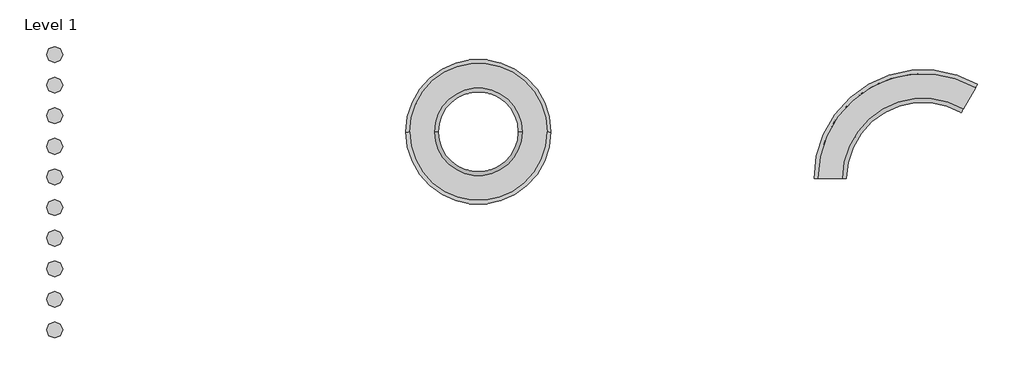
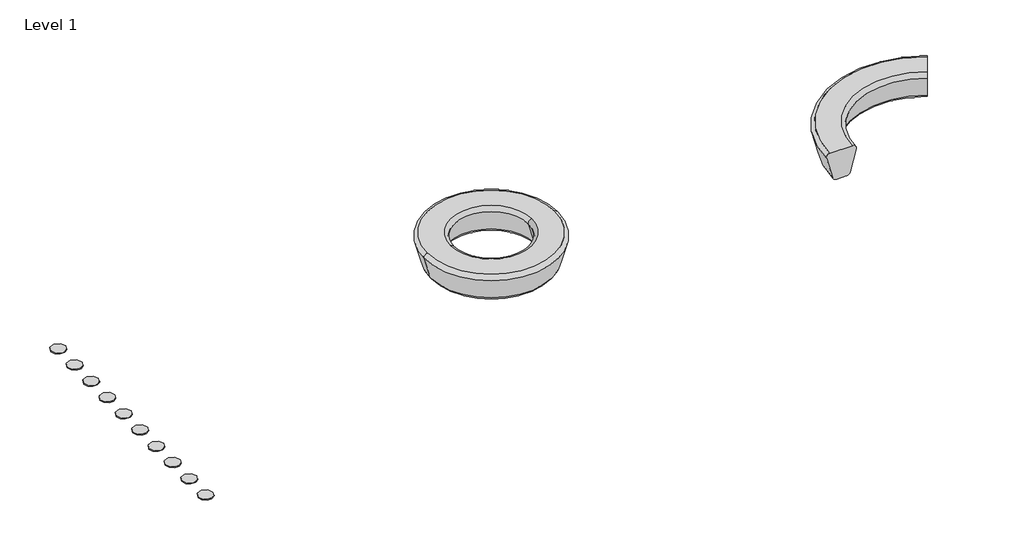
# One storey, incomplete: 10 proxies, 2 furniture elements.
"""IFC4 building model written with IfcOpenShell, lengths in millimetres."""

import ifcopenshell
import ifcopenshell.guid

model = None  # the IFC model being written
_history = None  # IfcOwnerHistory: only IFC2X3 demands one
_inside = {}  # id of a spatial element -> (the spatial element, [elements in it])
_under = {}  # id of a project, library or spatial element -> (it, [spatial elements below it])
_declared = {}  # id of a project -> (the project, [libraries it declares])
_typed = {}  # id of a type object -> (the type object, [elements of that type])
_made_of = {}  # id of a material, layer set ... -> (it, [elements and type objects made of it])


def new_model(schema):
    """Start an empty IFC model of exactly this schema.

    Asked for "IFC4X3", IfcOpenShell would pick the latest addendum, in which some entities
    have other attributes; the version numbers below select the first issue.
    IFC2X3 requires an IfcOwnerHistory on every rooted entity: one is made here for all.
    """
    global model, _history
    if schema == "IFC4X3":
        model = ifcopenshell.file(schema_version=(4, 3, 0, 0))
    else:
        model = ifcopenshell.file(schema=schema)
    _inside.clear()
    _under.clear()
    _declared.clear()
    _typed.clear()
    _made_of.clear()
    _history = None
    if model.schema == "IFC2X3":
        org = make("IfcOrganization", Name="unknown")
        user = make(
            "IfcPersonAndOrganization",
            ThePerson=make("IfcPerson", FamilyName="unknown"),
            TheOrganization=org,
        )
        app = make(
            "IfcApplication",
            ApplicationDeveloper=org,
            Version="unknown",
            ApplicationFullName="unknown",
            ApplicationIdentifier="unknown",
        )
        _history = make(
            "IfcOwnerHistory",
            OwningUser=user,
            OwningApplication=app,
            ChangeAction="ADDED",
            CreationDate=0,
        )
    return model


def make(cls, **values):
    """One entity of the class cls with the attributes given. An attribute that is None is left unset."""
    return model.create_entity(
        cls, **{name: value for name, value in values.items() if value is not None}
    )


def rooted(cls, **values):
    """An entity with a GlobalId (a new one), such as an element, a storey or a relation."""
    return make(cls, GlobalId=ifcopenshell.guid.new(), OwnerHistory=_history, **values)


def si_unit(unit_type, name, prefix=None):
    """IfcSIUnit, for example si_unit("LENGTHUNIT", "METRE", prefix="MILLI")."""
    return make("IfcSIUnit", UnitType=unit_type, Prefix=prefix, Name=name)


def assignment(units):
    """IfcUnitAssignment: the units of a project."""
    return None if units is None else make("IfcUnitAssignment", Units=units)


def point(xyz):
    """IfcCartesianPoint."""
    return None if xyz is None else make("IfcCartesianPoint", Coordinates=xyz)


def direction(xyz):
    """IfcDirection."""
    return None if xyz is None else make("IfcDirection", DirectionRatios=xyz)


def frame(location, z_axis=None, x_axis=None):
    """IfcAxis2Placement3D, a coordinate frame: its origin and axes. An axis left out is left unset."""
    return make(
        "IfcAxis2Placement3D",
        Location=point(location),
        Axis=direction(z_axis),
        RefDirection=direction(x_axis),
    )


def frame_2d(location, x_axis=None):
    """IfcAxis2Placement2D, a coordinate frame in the plane: its origin and x axis."""
    return make(
        "IfcAxis2Placement2D", Location=point(location), RefDirection=direction(x_axis)
    )


def origin():
    """The frame at (0, 0, 0) with its axes left unset."""
    return frame((0.0, 0.0, 0.0))


def origin_with_axes():
    """The frame at (0, 0, 0) with the z axis (0, 0, 1) and the x axis (1, 0, 0) written out."""
    return frame((0.0, 0.0, 0.0), z_axis=(0.0, 0.0, 1.0), x_axis=(1.0, 0.0, 0.0))


def origin_2d():
    """The frame at (0, 0) in the plane with its x axis left unset."""
    return frame_2d((0.0, 0.0))


def place(relative_to, where):
    """IfcLocalPlacement: puts the frame where relative to a parent placement (None: the world)."""
    return make(
        "IfcLocalPlacement", PlacementRelTo=relative_to, RelativePlacement=where
    )


def context(
    kind, dimensions, precision=None, world=None, true_north=None, identifier=None
):
    """IfcGeometricRepresentationContext, for example the 3D "Model" context."""
    return make(
        "IfcGeometricRepresentationContext",
        ContextIdentifier=identifier,
        ContextType=kind,
        CoordinateSpaceDimension=dimensions,
        Precision=precision,
        WorldCoordinateSystem=world,
        TrueNorth=true_north,
    )


def project(units=None, contexts=None):
    """IfcProject with its units and contexts."""
    return rooted(
        "IfcProject",
        Name="project",
        RepresentationContexts=contexts,
        UnitsInContext=assignment(units),
    )


def spatial(cls, under=None, at=None, **own):
    """A site, building, storey or space (cls), placed at a placement, below another one or the project."""
    s = rooted(cls, ObjectPlacement=at, **own)
    if under is not None:
        _under.setdefault(under.id(), (under, []))[1].append(s)
    return s


def polyline(points):
    """IfcPolyline through the points."""
    return make("IfcPolyline", Points=[point(p) for p in points])


def circle_curve(where, radius):
    """IfcCircle in the frame where."""
    return make("IfcCircle", Position=where, Radius=radius)


def ellipse_curve(where, semi_axis1, semi_axis2):
    """IfcEllipse in the frame where."""
    return make(
        "IfcEllipse", Position=where, SemiAxis1=semi_axis1, SemiAxis2=semi_axis2
    )


def trimmed(basis, trim1, trim2, sense, master):
    """IfcTrimmedCurve: the piece of a basis curve between two trims."""
    return make(
        "IfcTrimmedCurve",
        BasisCurve=basis,
        Trim1=trim1,
        Trim2=trim2,
        SenseAgreement=sense,
        MasterRepresentation=master,
    )


def segment(curve, same_sense, transition):
    """IfcCompositeCurveSegment."""
    return make(
        "IfcCompositeCurveSegment",
        Transition=transition,
        SameSense=same_sense,
        ParentCurve=curve,
    )


def composite_curve(segments, self_intersect=None):
    """IfcCompositeCurve: segments joined end to end."""
    return make("IfcCompositeCurve", Segments=segments, SelfIntersect=self_intersect)


def outline(outer, holes=None, kind="AREA"):
    """IfcArbitraryClosedProfileDef: a profile drawn as a closed curve; with holes, ...WithVoids."""
    if holes is None:
        return make("IfcArbitraryClosedProfileDef", ProfileType=kind, OuterCurve=outer)
    return make(
        "IfcArbitraryProfileDefWithVoids",
        ProfileType=kind,
        OuterCurve=outer,
        InnerCurves=holes,
    )


def extrude(swept, where, along, depth):
    """IfcExtrudedAreaSolid: the profile swept, set in the frame where, extruded along a direction by depth."""
    return make(
        "IfcExtrudedAreaSolid",
        SweptArea=swept,
        Position=where,
        ExtrudedDirection=direction(along),
        Depth=depth,
    )


def shape(context_of_items, identifier, shape_type, items):
    """IfcShapeRepresentation: the items that make up one representation, for example the "Body"."""
    return make(
        "IfcShapeRepresentation",
        ContextOfItems=context_of_items,
        RepresentationIdentifier=identifier,
        RepresentationType=shape_type,
        Items=items,
    )


def source(mapping_origin, context_of_items, identifier, shape_type, items):
    """IfcRepresentationMap: a shape defined once, which mapped items show again and again."""
    return make(
        "IfcRepresentationMap",
        MappingOrigin=mapping_origin,
        MappedRepresentation=shape(context_of_items, identifier, shape_type, items),
    )


def transform(
    local_origin,
    x_axis=None,
    y_axis=None,
    z_axis=None,
    scale=None,
    scale2=None,
    scale3=None,
    uniform=True,
):
    """IfcCartesianTransformationOperator3D, or its non-uniform kind. x_axis, y_axis, z_axis: its Axis1, 2, 3."""
    if uniform:
        return make(
            "IfcCartesianTransformationOperator3D",
            Axis1=direction(x_axis),
            Axis2=direction(y_axis),
            LocalOrigin=point(local_origin),
            Scale=scale,
            Axis3=direction(z_axis),
        )
    return make(
        "IfcCartesianTransformationOperator3DnonUniform",
        Axis1=direction(x_axis),
        Axis2=direction(y_axis),
        LocalOrigin=point(local_origin),
        Scale=scale,
        Axis3=direction(z_axis),
        Scale2=scale2,
        Scale3=scale3,
    )


def mapped(mapping_source, mapping_target):
    """IfcMappedItem: shows the shape of a source again, moved by a transform."""
    return make(
        "IfcMappedItem", MappingSource=mapping_source, MappingTarget=mapping_target
    )


def made_of(thing, what):
    """Note that an element or type object is made of a material, layer set ...; save() writes the relation."""
    if what is not None:
        _made_of.setdefault(what.id(), (what, []))[1].append(thing)
    return thing


def element(
    cls,
    number,
    at=None,
    inside=None,
    cuts=None,
    type_object=None,
    material=None,
    context=None,
    identifier="Body",
    shape_type=None,
    held_by="IfcProductDefinitionShape",
    body=None,
    shapes=None,
    **own,
):
    """One element of the class cls, such as IfcWall. Its Tag is "e" and its number.

    at: its placement. inside: the storey or other place that contains it. cuts: it is an
    opening in that element (IfcRelVoidsElement). A single representation is given by context,
    identifier, shape_type and body (its items); several are given by shapes. held_by: the class
    of the entity that holds the representations. save() writes the other relations.
    """
    e = rooted(cls, Tag="e%d" % number, ObjectPlacement=at, **own)
    if body is not None:
        shapes = [shape(context, identifier, shape_type, body)]
    if shapes is not None:
        e.Representation = make(held_by, Representations=shapes)
    if inside is not None:
        _inside.setdefault(inside.id(), (inside, []))[1].append(e)
    if cuts is not None:
        rooted(
            "IfcRelVoidsElement", RelatingBuildingElement=cuts, RelatedOpeningElement=e
        )
    if type_object is not None:
        _typed.setdefault(type_object.id(), (type_object, []))[1].append(e)
    return made_of(e, material)


def aggregate(whole, parts):
    """IfcRelAggregates: a whole, such as a stair, and the parts it consists of."""
    return rooted("IfcRelAggregates", RelatingObject=whole, RelatedObjects=parts)


def save(model, path):
    """Write the relations noted so far, then the file.

    IfcRelAggregates (storeys below a building ...), IfcRelContainedInSpatialStructure (elements
    in a storey), IfcRelDefinesByType, IfcRelAssociatesMaterial and IfcRelDeclares: one each for
    every whole, place, type object, material and project.
    """
    for whole, parts in _under.values():
        aggregate(whole, parts)
    for where, things in _inside.values():
        rooted(
            "IfcRelContainedInSpatialStructure",
            RelatedElements=things,
            RelatingStructure=where,
        )
    for kind, things in _typed.values():
        rooted("IfcRelDefinesByType", RelatedObjects=things, RelatingType=kind)
    for what, things in _made_of.values():
        rooted("IfcRelAssociatesMaterial", RelatedObjects=things, RelatingMaterial=what)
    for by, libraries in _declared.values():
        rooted("IfcRelDeclares", RelatingContext=by, RelatedDefinitions=libraries)
    model.write(path)


def plane_surface(at):
    """IfcPlane: the flat surface through the origin of the frame at, square to its z axis."""
    return make("IfcPlane", Position=at)


def revolved_surface(curve, axis_point, axis_direction):
    """IfcSurfaceOfRevolution: the curve turned about the line through axis_point along axis_direction."""
    return make(
        "IfcSurfaceOfRevolution",
        SweptCurve=make("IfcArbitraryOpenProfileDef", ProfileType="CURVE", Curve=curve),
        AxisPosition=make("IfcAxis1Placement", Location=point(axis_point), Axis=direction(axis_direction)),
    )


def advanced_brep(points, edges, surfaces, faces):
    """IfcAdvancedBrep: a solid bounded by faces that lie on surfaces and meet in shared edges.

    An edge is (start, end): straight between two places in points (the first is 0);
    or (start, end, curve); or (start, end, curve, False) where it runs against its curve.
    A face is (place in surfaces, loops), or (place, loops, False) where it looks against
    its surface's normal. A loop lists edges by number (the first is 1), with a minus sign
    where the edge is run from its end to its start. The first loop is the outer one.
    """
    corners = [point(p) for p in points]
    vertices = [make("IfcVertexPoint", VertexGeometry=c) for c in corners]
    made = []
    for start, end, *more in edges:
        made.append(
            make(
                "IfcEdgeCurve",
                EdgeStart=vertices[start],
                EdgeEnd=vertices[end],
                EdgeGeometry=more[0] if more else make("IfcPolyline", Points=[corners[start], corners[end]]),
                SameSense=more[1] if len(more) > 1 else True,
            )
        )
    hull = []
    for where, loops, *sense in faces:
        bounds = []
        for j, loop in enumerate(loops):
            ring = [make("IfcOrientedEdge", EdgeElement=made[abs(k) - 1], Orientation=k > 0) for k in loop]
            bounds.append(
                make(
                    "IfcFaceOuterBound" if j == 0 else "IfcFaceBound",
                    Bound=make("IfcEdgeLoop", EdgeList=ring),
                    Orientation=True,
                )
            )
        hull.append(make("IfcAdvancedFace", Bounds=bounds, FaceSurface=surfaces[where], SameSense=sense[0] if sense else True))
    return make("IfcAdvancedBrep", Outer=make("IfcClosedShell", CfsFaces=hull))


def materialmodel_materialmodel_a045d503(model_context):
    return source(origin(), model_context, "Body", "SweptSolid", [
        extrude(outline(composite_curve([segment(trimmed(circle_curve(origin_2d(), 100.0), [point((-100.0, 0.0))], [point((100.0, 0.0))], False, "CARTESIAN"), True, "CONTINUOUS"), segment(trimmed(circle_curve(origin_2d(), 100.0), [point((100.0, 0.0))], [point((-100.0, 0.0))], False, "CARTESIAN"), True, "CONTINUOUS")], self_intersect=False)), origin_with_axes(), (0.0, 0.0, 1.0), 9.142525),
    ])


def furniture_19c0a6c2(model_context):
    return source(origin(), model_context, "Body", "AdvancedBrep", [
        advanced_brep(
        [(-578.234545, 0.0, 42.0312789), (578.234545, 0.0, 42.0312789), (633.0107741, 0.0, 0.0), (-633.0107741, 0.0, 0.0), (-497.9802551, 0.0, 341.5443664), (497.9802551, 0.0, 341.5443664), (-542.7971698, 0.0, 399.9509069), (542.7971698, 0.0, 399.9509069), (-897.1604862, 0.0, 341.5443664), (897.1604862, 0.0, 341.5443664), (852.3435714, 0.0, 399.9509069), (-852.3435714, 0.0, 399.9509069), (-816.9061962, 0.0, 42.0312789), (816.9061962, 0.0, 42.0312789), (-762.1299671, 0.0, 0.0), (762.1299671, 0.0, 0.0)],
        [
            (0, 1, circle_curve(frame((0.0, 0.0, 42.0312789), z_axis=(0.0, 0.0, 1.0), x_axis=(1.0, 0.0, 0.0)), 578.234545)),
            (1, 2, circle_curve(frame((633.0107741, 0.0, 56.7085253), z_axis=(0.0, -1.0, 0.0), x_axis=(1.0, 0.0, 0.0)), 56.7085253)),
            (2, 3, circle_curve(frame((0.0, 0.0, 0.0), z_axis=(0.0, 0.0, -1.0), x_axis=(1.0, 0.0, 0.0)), 633.0107741)),
            (3, 0, circle_curve(frame((-633.0107741, 0.0, 56.7085253), z_axis=(0.0, -1.0, 0.0), x_axis=(-1.0, 0.0, 0.0)), 56.7085253)),
            (4, 5, circle_curve(frame((0.0, 0.0, 341.5443664), z_axis=(0.0, 0.0, 1.0), x_axis=(1.0, 0.0, 0.0)), 497.9802551)),
            (5, 1),
            (0, 4),
            (6, 7, circle_curve(frame((0.0, 0.0, 399.9509069), z_axis=(0.0, 0.0, 1.0), x_axis=(1.0, 0.0, 0.0)), 542.7971698)),
            (7, 5, circle_curve(frame((542.7971698, 0.0, 353.5530226), z_axis=(0.0, -1.0, 0.0), x_axis=(1.0, 0.0, 0.0)), 46.3978843)),
            (4, 6, circle_curve(frame((-542.7971698, 0.0, 353.5530226), z_axis=(0.0, -1.0, 0.0), x_axis=(-1.0, 0.0, 0.0)), 46.3978843)),
            (8, 9, circle_curve(frame((0.0, 0.0, 341.5443664), z_axis=(0.0, 0.0, 1.0), x_axis=(1.0, 0.0, 0.0)), 897.1604862)),
            (9, 10, circle_curve(frame((852.3435714, 0.0, 353.5530226), z_axis=(0.0, -1.0, 0.0), x_axis=(-1.0, 0.0, 0.0)), 46.3978843)),
            (10, 11, circle_curve(frame((0.0, 0.0, 399.9509069), z_axis=(0.0, 0.0, -1.0), x_axis=(1.0, 0.0, 0.0)), 852.3435714)),
            (11, 8, circle_curve(frame((-852.3435714, 0.0, 353.5530226), z_axis=(0.0, -1.0, 0.0), x_axis=(1.0, 0.0, 0.0)), 46.3978843)),
            (12, 13, circle_curve(frame((0.0, 0.0, 42.0312789), z_axis=(0.0, 0.0, 1.0), x_axis=(1.0, 0.0, 0.0)), 816.9061962)),
            (13, 9),
            (8, 12),
            (14, 15, circle_curve(origin_with_axes(), 762.1299671)),
            (15, 13, circle_curve(frame((762.1299671, 0.0, 56.7085253), z_axis=(0.0, -1.0, 0.0), x_axis=(-1.0, 0.0, 0.0)), 56.7085253)),
            (12, 14, circle_curve(frame((-762.1299671, 0.0, 56.7085253), z_axis=(0.0, -1.0, 0.0), x_axis=(1.0, 0.0, 0.0)), 56.7085253)),
            (14, 15, circle_curve(frame((0.0, 0.0, 0.0), z_axis=(0.0, 0.0, -1.0), x_axis=(-1.0, 0.0, 0.0)), 762.1299671)),
            (2, 3, circle_curve(frame((0.0, 0.0, 0.0), z_axis=(0.0, 0.0, 1.0), x_axis=(-1.0, 0.0, 0.0)), 633.0107741)),
            (1, 0, circle_curve(frame((0.0, 0.0, 42.0312789), z_axis=(0.0, 0.0, 1.0), x_axis=(-1.0, 0.0, 0.0)), 578.234545)),
            (5, 4, circle_curve(frame((0.0, 0.0, 341.5443664), z_axis=(0.0, 0.0, 1.0), x_axis=(-1.0, 0.0, 0.0)), 497.9802551)),
            (7, 6, circle_curve(frame((0.0, 0.0, 399.9509069), z_axis=(0.0, 0.0, 1.0), x_axis=(-1.0, 0.0, 0.0)), 542.7971698)),
            (10, 11, circle_curve(frame((0.0, 0.0, 399.9509069), z_axis=(0.0, 0.0, 1.0), x_axis=(-1.0, 0.0, 0.0)), 852.3435714)),
            (9, 8, circle_curve(frame((0.0, 0.0, 341.5443664), z_axis=(0.0, 0.0, 1.0), x_axis=(-1.0, 0.0, 0.0)), 897.1604862)),
            (13, 12, circle_curve(frame((0.0, 0.0, 42.0312789), z_axis=(0.0, 0.0, 1.0), x_axis=(-1.0, 0.0, 0.0)), 816.9061962)),
        ],
        [
            revolved_surface(trimmed(ellipse_curve(frame((633.0107741, 0.0, 56.7085253), z_axis=(0.0, 1.0, 0.0), x_axis=(1.0, 0.0, 0.0)), 56.7085253, 56.7085253), [point((633.0107741, 0.0, 0.0))], [point((578.234545, 0.0, 42.0312789))], True, "CARTESIAN"), (0.0, 0.0, 0.0), (0.0, 0.0, -1.0)),
            revolved_surface(polyline([(578.234545, 0.0, 42.0312789), (497.9802551, 0.0, 341.5443664)]), (0.0, 0.0, 0.0), (0.0, 0.0, -1.0)),
            revolved_surface(trimmed(ellipse_curve(frame((542.7971698, 0.0, 353.5530226), z_axis=(0.0, 1.0, 0.0), x_axis=(1.0, 0.0, 0.0)), 46.3978843, 46.3978843), [point((497.9802551, 0.0, 341.5443664))], [point((542.7971698, 0.0, 399.9509069))], True, "CARTESIAN"), (0.0, 0.0, 0.0), (0.0, 0.0, -1.0)),
            revolved_surface(trimmed(ellipse_curve(frame((852.3435714, 0.0, 353.5530226), z_axis=(0.0, 1.0, 0.0), x_axis=(-1.0, 0.0, 0.0)), 46.3978843, 46.3978843), [point((852.3435714, 0.0, 399.9509069))], [point((897.1604862, 0.0, 341.5443664))], True, "CARTESIAN"), (0.0, 0.0, 0.0), (0.0, 0.0, -1.0)),
            revolved_surface(polyline([(897.1604862, 0.0, 341.5443664), (816.9061962, 0.0, 42.0312789)]), (0.0, 0.0, 0.0), (0.0, 0.0, -1.0)),
            revolved_surface(trimmed(ellipse_curve(frame((762.1299671, 0.0, 56.7085253), z_axis=(0.0, 1.0, 0.0), x_axis=(-1.0, 0.0, 0.0)), 56.7085253, 56.7085253), [point((816.9061962, 0.0, 42.0312789))], [point((762.1299671, 0.0, 0.0))], True, "CARTESIAN"), (0.0, 0.0, 0.0), (0.0, 0.0, -1.0)),
            plane_surface(frame((0.0, 0.0, 0.0), z_axis=(0.0, 0.0, -1.0), x_axis=(-1.0, 0.0, 0.0))),
            revolved_surface(trimmed(ellipse_curve(frame((-633.0107741, 0.0, 56.7085253), z_axis=(0.0, -1.0, 0.0), x_axis=(-1.0, 0.0, 0.0)), 56.7085253, 56.7085253), [point((-633.0107741, 0.0, 0.0))], [point((-578.234545, 0.0, 42.0312789))], True, "CARTESIAN"), (0.0, 0.0, 0.0), (0.0, 0.0, -1.0)),
            revolved_surface(polyline([(-578.234545, 0.0, 42.0312789), (-497.9802551, 0.0, 341.5443664)]), (0.0, 0.0, 0.0), (0.0, 0.0, -1.0)),
            revolved_surface(trimmed(ellipse_curve(frame((-542.7971698, 0.0, 353.5530226), z_axis=(0.0, -1.0, 0.0), x_axis=(-1.0, 0.0, 0.0)), 46.3978843, 46.3978843), [point((-497.9802551, 0.0, 341.5443664))], [point((-542.7971698, 0.0, 399.9509069))], True, "CARTESIAN"), (0.0, 0.0, 0.0), (0.0, 0.0, -1.0)),
            plane_surface(frame((0.0, 0.0, 399.9509069), z_axis=(0.0, 0.0, 1.0), x_axis=(-1.0, 0.0, 0.0))),
            revolved_surface(trimmed(ellipse_curve(frame((-852.3435714, 0.0, 353.5530226), z_axis=(0.0, -1.0, 0.0), x_axis=(1.0, 0.0, 0.0)), 46.3978843, 46.3978843), [point((-852.3435714, 0.0, 399.9509069))], [point((-897.1604862, 0.0, 341.5443664))], True, "CARTESIAN"), (0.0, 0.0, 0.0), (0.0, 0.0, -1.0)),
            revolved_surface(polyline([(-897.1604862, 0.0, 341.5443664), (-816.9061962, 0.0, 42.0312789)]), (0.0, 0.0, 0.0), (0.0, 0.0, -1.0)),
            revolved_surface(trimmed(ellipse_curve(frame((-762.1299671, 0.0, 56.7085253), z_axis=(0.0, -1.0, 0.0), x_axis=(1.0, 0.0, 0.0)), 56.7085253, 56.7085253), [point((-816.9061962, 0.0, 42.0312789))], [point((-762.1299671, 0.0, 0.0))], True, "CARTESIAN"), (0.0, 0.0, 0.0), (0.0, 0.0, -1.0)),
        ],
        [
            (0, [[1, 2, 3, 4]]),
            (1, [[5, 6, -1, 7]]),
            (2, [[8, 9, -5, 10]]),
            (3, [[11, 12, 13, 14]]),
            (4, [[15, 16, -11, 17]]),
            (5, [[18, 19, -15, 20]]),
            (6, [[21, -18], [22, -3]]),
            (7, [[23, -4, -22, -2]]),
            (8, [[24, -7, -23, -6]]),
            (9, [[25, -10, -24, -9]]),
            (10, [[26, -13], [-25, -8]]),
            (11, [[27, -14, -26, -12]]),
            (12, [[28, -17, -27, -16]]),
            (13, [[-21, -20, -28, -19]]),
        ],
    ),
    ])


def furniture_7adfde9e(model_context):
    return source(origin(), model_context, "Body", "AdvancedBrep", [
        advanced_brep(
        [(-199.3955929, 0.0, 341.3051683), (-119.141303, 0.0, 41.7920808), (-64.3650739, 0.0, -0.2391981), (64.3650739, 0.0, -0.2391981), (119.141303, 0.0, 41.7920808), (199.3955929, 0.0, 341.3051683), (154.5786782, 0.0, 399.7117088), (-154.5786782, 0.0, 399.7117088), (1824.6348107, 1168.5744984, 341.3051683), (1802.2263534, 1129.7619117, 399.7117088), (1647.6476752, 862.0237874, 399.7117088), (1625.2392178, 823.2112007, 341.3051683), (1665.3663628, 892.7134545, 41.7920808), (1692.7544774, 940.1510605, -0.2391981), (1757.1195512, 1051.6346386, -0.2391981), (1784.5076658, 1099.0722446, 41.7920808)],
        [
            (0, 1),
            (1, 2, circle_curve(frame((-64.3650739, 0.0, 56.4693272), z_axis=(0.0, -1.0, 0.0), x_axis=(1.0, 0.0, 0.0)), 56.7085253)),
            (2, 3),
            (3, 4, circle_curve(frame((64.3650739, 0.0, 56.4693272), z_axis=(0.0, -1.0, 0.0), x_axis=(-1.0, 0.0, 0.0)), 56.7085253)),
            (4, 5),
            (5, 6, circle_curve(frame((154.5786782, 0.0, 353.3138245), z_axis=(0.0, -1.0, 0.0), x_axis=(-1.0, 0.0, 0.0)), 46.3978843)),
            (6, 7),
            (7, 0, circle_curve(frame((-154.5786782, 0.0, 353.3138245), z_axis=(0.0, -1.0, 0.0), x_axis=(1.0, 0.0, 0.0)), 46.3978843)),
            (8, 9, circle_curve(frame((1802.2263534, 1129.7619117, 353.3138245), z_axis=(0.8660254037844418, -0.4999999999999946, 0.0), x_axis=(-0.4999999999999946, -0.8660254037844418, 0.0)), 46.3978843)),
            (9, 10),
            (10, 11, circle_curve(frame((1647.6476752, 862.0237874, 353.3138245), z_axis=(0.8660254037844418, -0.49999999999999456, 0.0), x_axis=(0.49999999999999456, 0.8660254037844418, 0.0)), 46.3978843)),
            (11, 12),
            (12, 13, circle_curve(frame((1692.7544774, 940.1510605, 56.4693272), z_axis=(0.8660254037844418, -0.49999999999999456, 0.0), x_axis=(0.49999999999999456, 0.8660254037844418, 0.0)), 56.7085253)),
            (13, 14),
            (14, 15, circle_curve(frame((1757.1195512, 1051.6346386, 56.4693272), z_axis=(0.8660254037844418, -0.4999999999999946, 0.0), x_axis=(-0.4999999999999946, -0.8660254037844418, 0.0)), 56.7085253)),
            (15, 8),
            (8, 0, circle_curve(frame((1149.9580095, 0.0, 341.3051683), z_axis=(0.0, 0.0, 1.0), x_axis=(-1.0, 0.0, 0.0)), 1349.3536025)),
            (7, 9, circle_curve(frame((1149.9580095, 0.0, 399.7117088), z_axis=(0.0, 0.0, -1.0), x_axis=(-1.0, 0.0, 0.0)), 1304.5366877)),
            (15, 1, circle_curve(frame((1149.9580095, 0.0, 41.7920808), z_axis=(0.0, 0.0, 1.0), x_axis=(-1.0, 0.0, 0.0)), 1269.0993125)),
            (14, 2, circle_curve(frame((1149.9580095, 0.0, -0.2391981), z_axis=(0.0, 0.0, 1.0), x_axis=(-1.0, 0.0, 0.0)), 1214.3230834)),
            (13, 3, circle_curve(frame((1149.9580095, 0.0, -0.2391981), z_axis=(0.0, 0.0, 1.0), x_axis=(-1.0, 0.0, 0.0)), 1085.5929357)),
            (12, 4, circle_curve(frame((1149.9580095, 0.0, 41.7920808), z_axis=(0.0, 0.0, 1.0), x_axis=(-1.0, 0.0, 0.0)), 1030.8167065)),
            (11, 5, circle_curve(frame((1149.9580095, 0.0, 341.3051683), z_axis=(0.0, 0.0, 1.0), x_axis=(-1.0, 0.0, 0.0)), 950.5624166)),
            (10, 6, circle_curve(frame((1149.9580095, 0.0, 399.7117088), z_axis=(0.0, 0.0, 1.0), x_axis=(-1.0, 0.0, 0.0)), 995.3793314)),
        ],
        [
            plane_surface(frame((0.0, 0.0, 0.0), z_axis=(0.0, -1.0, 0.0), x_axis=(0.0, 0.0, 1.0))),
            plane_surface(frame((1724.9370143, 995.8928495, 0.0), z_axis=(0.8660254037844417, -0.49999999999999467, 0.0), x_axis=(0.0, 0.0, 1.0))),
            revolved_surface(trimmed(ellipse_curve(frame((-154.5786782, 0.0, 353.3138245), z_axis=(0.0, -1.0, 0.0), x_axis=(1.0, 0.0, 0.0)), 46.3978843, 46.3978843), [point((-154.5786782, 0.0, 399.7117088))], [point((-199.3955929, 0.0, 341.3051683))], True, "CARTESIAN"), (1149.9580095, 0.0, 0.0), (0.0, 0.0, -1.0)),
            revolved_surface(polyline([(-199.3955929, 0.0, 341.3051683), (-119.141303, 0.0, 41.7920808)]), (1149.9580095, 0.0, 0.0), (0.0, 0.0, -1.0)),
            revolved_surface(trimmed(ellipse_curve(frame((-64.3650739, 0.0, 56.4693272), z_axis=(0.0, -1.0, 0.0), x_axis=(1.0, 0.0, 0.0)), 56.7085253, 56.7085253), [point((-119.141303, 0.0, 41.7920808))], [point((-64.3650739, 0.0, -0.2391981))], True, "CARTESIAN"), (1149.9580095, 0.0, 0.0), (0.0, 0.0, -1.0)),
            plane_surface(frame((1149.9580095, 0.0, -0.2391981), z_axis=(0.0, 0.0, -1.0), x_axis=(-1.0, 0.0, 0.0))),
            revolved_surface(trimmed(ellipse_curve(frame((64.3650739, 0.0, 56.4693272), z_axis=(0.0, -1.0, 0.0), x_axis=(-1.0, 0.0, 0.0)), 56.7085253, 56.7085253), [point((64.3650739, 0.0, -0.2391981))], [point((119.141303, 0.0, 41.7920808))], True, "CARTESIAN"), (1149.9580095, 0.0, 0.0), (0.0, 0.0, -1.0)),
            revolved_surface(polyline([(119.141303, 0.0, 41.7920808), (199.3955929, 0.0, 341.3051683)]), (1149.9580095, 0.0, 0.0), (0.0, 0.0, -1.0)),
            revolved_surface(trimmed(ellipse_curve(frame((154.5786782, 0.0, 353.3138245), z_axis=(0.0, -1.0, 0.0), x_axis=(-1.0, 0.0, 0.0)), 46.3978843, 46.3978843), [point((199.3955929, 0.0, 341.3051683))], [point((154.5786782, 0.0, 399.7117088))], True, "CARTESIAN"), (1149.9580095, 0.0, 0.0), (0.0, 0.0, -1.0)),
            plane_surface(frame((1149.9580095, 0.0, 399.7117088), z_axis=(0.0, 0.0, 1.0), x_axis=(-1.0, 0.0, 0.0))),
        ],
        [
            (0, [[1, 2, 3, 4, 5, 6, 7, 8]]),
            (1, [[9, 10, 11, 12, 13, 14, 15, 16]]),
            (2, [[17, -8, 18, -9]]),
            (3, [[19, -1, -17, -16]]),
            (4, [[20, -2, -19, -15]]),
            (5, [[21, -3, -20, -14]]),
            (6, [[22, -4, -21, -13]]),
            (7, [[23, -5, -22, -12]]),
            (8, [[24, -6, -23, -11]]),
            (9, [[-18, -7, -24, -10]]),
        ],
    ),
    ])


model = new_model("IFC4")

# Units and contexts
model_context = context("Model", 3, world=origin())
ifc_project = project(units=[si_unit("LENGTHUNIT", "METRE", prefix="MILLI")], contexts=[model_context])

# Site, building, storey
site = spatial("IfcSite", under=ifc_project)
building = spatial("IfcBuilding", under=site)
storey = spatial("IfcBuildingStorey", under=building, Name="Level 1", Elevation=0.0)

# Proxies
placement = place(None, origin())
materialmodel_materialmodel_shape = materialmodel_materialmodel_a045d503(model_context)
element("IfcBuildingElementProxy", 1, Name="MaterialModel : MaterialModel", ObjectType="MaterialModel : MaterialModel", at=placement, inside=storey, context=model_context, shape_type="MappedRepresentation", body=[
    mapped(materialmodel_materialmodel_shape, transform((-7577.4682316, 1428.2807056, 0.0), x_axis=(1.0, 0.0, 0.0), y_axis=(0.0, 1.0, 0.0), z_axis=(0.0, 0.0, 1.0))),
])
element("IfcBuildingElementProxy", 2, Name="MaterialModel : MaterialModel", ObjectType="MaterialModel : MaterialModel", at=placement, inside=storey, context=model_context, shape_type="MappedRepresentation", body=[
    mapped(materialmodel_materialmodel_shape, transform((-7577.4682316, 1048.2807056, 0.0), x_axis=(1.0, 0.0, 0.0), y_axis=(0.0, 1.0, 0.0), z_axis=(0.0, 0.0, 1.0))),
])
element("IfcBuildingElementProxy", 3, Name="MaterialModel : MaterialModel", ObjectType="MaterialModel : MaterialModel", at=placement, inside=storey, context=model_context, shape_type="MappedRepresentation", body=[
    mapped(materialmodel_materialmodel_shape, transform((-7577.4682316, 668.2807056, 0.0), x_axis=(1.0, 0.0, 0.0), y_axis=(0.0, 1.0, 0.0), z_axis=(0.0, 0.0, 1.0))),
])
element("IfcBuildingElementProxy", 4, Name="MaterialModel : MaterialModel", ObjectType="MaterialModel : MaterialModel", at=placement, inside=storey, context=model_context, shape_type="MappedRepresentation", body=[
    mapped(materialmodel_materialmodel_shape, transform((-7577.4682316, -91.7192944, 0.0), x_axis=(1.0, 0.0, 0.0), y_axis=(0.0, 1.0, 0.0), z_axis=(0.0, 0.0, 1.0))),
])
element("IfcBuildingElementProxy", 5, Name="MaterialModel : MaterialModel", ObjectType="MaterialModel : MaterialModel", at=placement, inside=storey, context=model_context, shape_type="MappedRepresentation", body=[
    mapped(materialmodel_materialmodel_shape, transform((-7577.4682316, -471.7192944, 0.0), x_axis=(1.0, 0.0, 0.0), y_axis=(0.0, 1.0, 0.0), z_axis=(0.0, 0.0, 1.0))),
])
element("IfcBuildingElementProxy", 6, Name="MaterialModel : MaterialModel", ObjectType="MaterialModel : MaterialModel", at=placement, inside=storey, context=model_context, shape_type="MappedRepresentation", body=[
    mapped(materialmodel_materialmodel_shape, transform((-7577.4682316, -851.7192944, 0.0), x_axis=(1.0, 0.0, 0.0), y_axis=(0.0, 1.0, 0.0), z_axis=(0.0, 0.0, 1.0))),
])
element("IfcBuildingElementProxy", 7, Name="MaterialModel : MaterialModel", ObjectType="MaterialModel : MaterialModel", at=placement, inside=storey, context=model_context, shape_type="MappedRepresentation", body=[
    mapped(materialmodel_materialmodel_shape, transform((-7577.4682316, -1231.7192944, 0.0), x_axis=(1.0, 0.0, 0.0), y_axis=(0.0, 1.0, 0.0), z_axis=(0.0, 0.0, 1.0))),
])
element("IfcBuildingElementProxy", 8, Name="MaterialModel : MaterialModel", ObjectType="MaterialModel : MaterialModel", at=placement, inside=storey, context=model_context, shape_type="MappedRepresentation", body=[
    mapped(materialmodel_materialmodel_shape, transform((-7577.4682316, -1611.7192944, 0.0), x_axis=(1.0, 0.0, 0.0), y_axis=(0.0, 1.0, 0.0), z_axis=(0.0, 0.0, 1.0))),
])
element("IfcBuildingElementProxy", 9, Name="MaterialModel : MaterialModel", ObjectType="MaterialModel : MaterialModel", at=placement, inside=storey, context=model_context, shape_type="MappedRepresentation", body=[
    mapped(materialmodel_materialmodel_shape, transform((-7577.4682316, -1991.7192944, 0.0), x_axis=(1.0, 0.0, 0.0), y_axis=(0.0, 1.0, 0.0), z_axis=(0.0, 0.0, 1.0))),
])
element("IfcBuildingElementProxy", 10, Name="MaterialModel : MaterialModel", ObjectType="MaterialModel : MaterialModel", at=placement, inside=storey, context=model_context, shape_type="MappedRepresentation", body=[
    mapped(materialmodel_materialmodel_shape, transform((-7577.4682316, 288.2807056, 0.0), x_axis=(1.0, 0.0, 0.0), y_axis=(0.0, 1.0, 0.0), z_axis=(0.0, 0.0, 1.0))),
])

# Furniture
furniture_shape = furniture_19c0a6c2(model_context)
element("IfcFurniture", 11, ObjectType="out-sider - Loop - Circle - Bench : out-sider - Loop - Circle - Bench", at=placement, inside=storey, context=model_context, shape_type="MappedRepresentation", body=[
    mapped(furniture_shape, transform((-2322.7952886, 468.5757505, 0.0), x_axis=(1.0, 0.0, 0.0), y_axis=(0.0, 1.0, 0.0), z_axis=(0.0, 0.0, 1.0))),
])
furniture_2_shape = furniture_7adfde9e(model_context)
element("IfcFurniture", 12, ObjectType="out-sider - Loop - Arc - Bench : out-sider - Loop - Arc - Bench", at=placement, inside=storey, context=model_context, shape_type="MappedRepresentation", body=[
    mapped(furniture_2_shape, transform((2039.9247948, -111.9750884, 0.0), x_axis=(1.0, 0.0, 0.0), y_axis=(0.0, 1.0, 0.0), z_axis=(0.0, 0.0, 1.0))),
])

save(model, "model.ifc")
